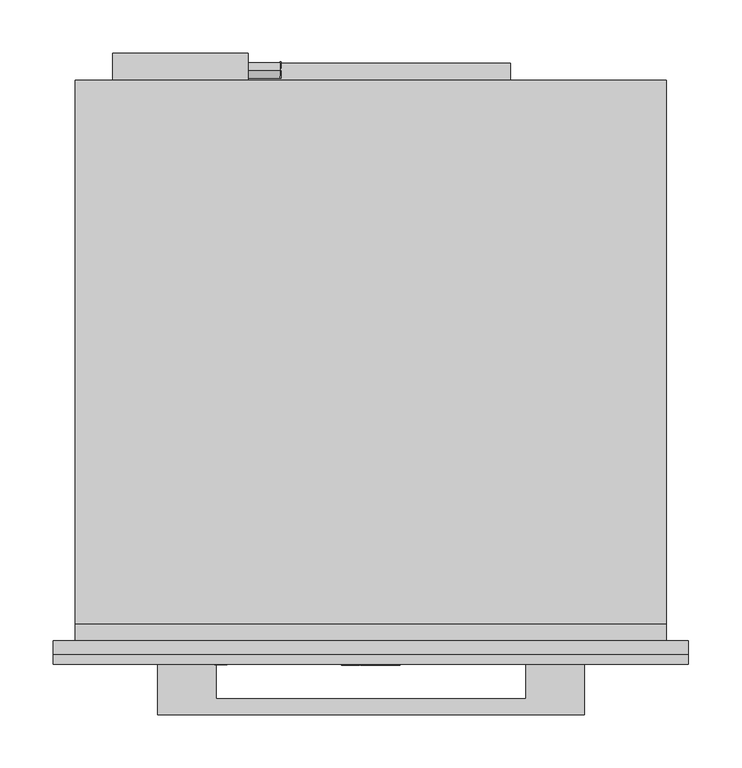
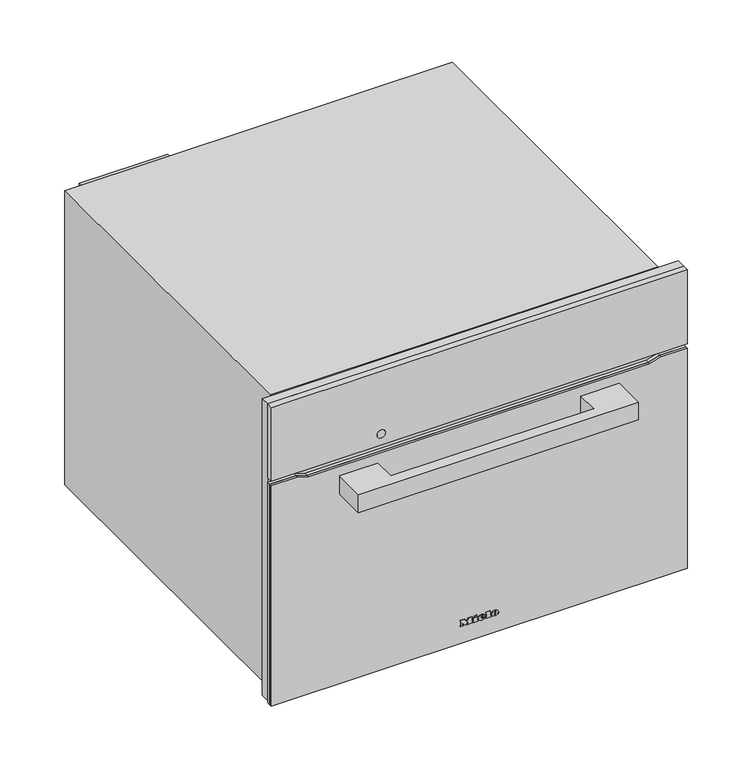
"""IFC4 building model written with IfcOpenShell, lengths in millimetres: proxy geometry, 11111200_CH_H7840BM_OBSW : 22784026_CH_11111200_H7840BM_OBSW."""

from ifc_helpers import new_model, si_unit, point, frame, frame_2d, origin, place, context, project, spatial, polyline, circle_curve, ellipse_curve, trimmed, segment, composite_curve, outline, extrude, faceted_brep, source, transform, mapped, element, save
from ifc_brep_helpers import plane_surface, cylinder_surface, revolved_surface, extruded_surface, advanced_brep


def specialty_equipment_cb0ab7d2(model_context):
    return source(origin(), model_context, "Body", "SolidModel", [
        advanced_brep(
        [(21.28, -23.0, 32.133), (21.28, -23.0, 33.042), (27.301, -23.0, 33.042), (16.825, -23.0, 33.042), (19.3, -23.0, 30.0), (27.148, -23.0, 32.133), (24.43, -23.0, 32.133), (22.288, -23.0, 31.125), (21.28, -23.0, 34.194), (21.28, -23.0, 35.175), (22.819, -23.0, 35.175), (22.819, -23.0, 34.194), (21.28, -22.0, 32.133), (22.288, -22.0, 31.125), (24.43, -22.0, 32.133), (27.148, -22.0, 32.133), (19.3, -22.0, 30.0), (16.825, -22.0, 33.042), (27.301, -22.0, 33.042), (21.28, -22.0, 33.042), (21.28, -22.0, 34.194), (22.819, -22.0, 34.194), (22.819, -22.0, 35.175), (21.28, -22.0, 35.175)],
        [
            (0, 1),
            (1, 2),
            (2, 3, ellipse_curve(frame((22.063, -23.0, 33.042), z_axis=(0.0, -1.0, 0.0), x_axis=(-1.0, 0.0, 0.0)), 5.238, 4.329)),
            (3, 4, circle_curve(frame((20.3080491, -23.0, 33.348), z_axis=(0.0, -1.0, 0.0), x_axis=(0.0, 0.0, -1.0)), 3.4964649)),
            (4, 5, circle_curve(frame((21.9581428, -23.0, 35.724), z_axis=(0.0, -1.0, 0.0), x_axis=(0.0, 0.0, -1.0)), 6.3110933)),
            (5, 6),
            (6, 7, circle_curve(frame((22.7279412, -23.0, 32.97), z_axis=(0.0, 1.0, 0.0), x_axis=(0.0, 0.0, -1.0)), 1.896727)),
            (7, 0, circle_curve(frame((22.288, -23.0, 32.133), z_axis=(0.0, 1.0, 0.0), x_axis=(0.0, 0.0, -1.0)), 1.008)),
            (8, 9),
            (9, 10, circle_curve(frame((22.0495, -23.0, 35.175), z_axis=(0.0, 1.0, 0.0), x_axis=(0.0, 0.0, -1.0)), 0.7695)),
            (10, 11),
            (11, 8),
            (12, 13, circle_curve(frame((22.288, -22.0, 32.133), z_axis=(0.0, -1.0, 0.0), x_axis=(0.0, 0.0, -1.0)), 1.008)),
            (13, 14, circle_curve(frame((22.7279412, -22.0, 32.97), z_axis=(0.0, -1.0, 0.0), x_axis=(0.0, 0.0, -1.0)), 1.896727)),
            (14, 15),
            (15, 16, circle_curve(frame((21.9581428, -22.0, 35.724), z_axis=(0.0, 1.0, 0.0), x_axis=(0.0, 0.0, -1.0)), 6.3110933)),
            (16, 17, circle_curve(frame((20.3080491, -22.0, 33.348), z_axis=(0.0, 1.0, 0.0), x_axis=(0.0, 0.0, -1.0)), 3.4964649)),
            (17, 18, ellipse_curve(frame((22.063, -22.0, 33.042), z_axis=(0.0, 1.0, 0.0), x_axis=(-1.0, 0.0, 0.0)), 5.238, 4.329)),
            (18, 19),
            (19, 12),
            (20, 21),
            (21, 22),
            (22, 23, circle_curve(frame((22.0495, -22.0, 35.175), z_axis=(0.0, -1.0, 0.0), x_axis=(0.0, 0.0, -1.0)), 0.7695)),
            (23, 20),
            (0, 12),
            (19, 1),
            (18, 2),
            (5, 15),
            (14, 6),
            (17, 3),
            (13, 7),
            (16, 4),
            (8, 20),
            (23, 9),
            (22, 10),
            (21, 11),
        ],
        [
            plane_surface(frame((21.28, -23.0, 33.042), z_axis=(0.0, -1.0, 0.0), x_axis=(0.0, 0.0, 1.0))),
            plane_surface(frame((21.28, -22.0, 33.042), z_axis=(0.0, 1.0, 0.0), x_axis=(0.0, 0.0, -1.0))),
            plane_surface(frame((21.28, -23.0, 32.133), z_axis=(1.0, 0.0, 0.0), x_axis=(0.0, 1.0, 0.0))),
            plane_surface(frame((21.28, -23.0, 33.042), z_axis=(0.0, 0.0, -1.0), x_axis=(0.0, 1.0, 0.0))),
            plane_surface(frame((27.148, -23.0, 32.133), z_axis=(0.0, 0.0, 1.0), x_axis=(0.0, 1.0, 0.0))),
            extruded_surface(trimmed(ellipse_curve(frame((22.063, -21.0, 33.042), z_axis=(0.0, -1.0, 0.0), x_axis=(-1.0, 0.0, 0.0)), 5.238, 4.329), [point((27.301, -21.0, 33.042))], [point((16.825, -21.0, 33.042))], True, "CARTESIAN"), (0.0, -1.0, 0.0), 1.0),
            revolved_surface(polyline([(22.7279412, -22.0, 31.073273), (22.7279412, -23.0, 31.073273)]), (22.7279412, -22.0, 32.97), (0.0, 1.0, 0.0)),
            revolved_surface(polyline([(22.288, -22.0, 31.125000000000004), (22.288, -23.0, 31.125000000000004)]), (22.288, -22.0, 32.133), (0.0, 1.0, 0.0)),
            cylinder_surface(frame((20.3080491, -22.0, 33.348), z_axis=(0.0, -1.0, 0.0), x_axis=(0.0, 0.0, -1.0)), 3.4964649),
            cylinder_surface(frame((21.9581428, -22.0, 35.724), z_axis=(0.0, -1.0, 0.0), x_axis=(0.0, 0.0, -1.0)), 6.3110933),
            plane_surface(frame((21.28, -23.0, 34.194), z_axis=(1.0, 0.0, 0.0), x_axis=(0.0, 1.0, 0.0))),
            revolved_surface(polyline([(22.0495, -22.0, 34.405499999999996), (22.0495, -23.0, 34.405499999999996)]), (22.0495, -22.0, 35.175), (0.0, 1.0, 0.0)),
            plane_surface(frame((22.819, -23.0, 35.175), z_axis=(-1.0, 0.0, 0.0), x_axis=(0.0, 1.0, 0.0))),
            plane_surface(frame((22.819, -23.0, 34.194), z_axis=(0.0, 0.0, 1.0), x_axis=(0.0, 1.0, 0.0))),
        ],
        [
            (0, [[1, 2, 3, 4, 5, 6, 7, 8], [9, 10, 11, 12]]),
            (1, [[13, 14, 15, 16, 17, 18, 19, 20], [21, 22, 23, 24]]),
            (2, [[-1, 25, -20, 26]]),
            (3, [[-2, -26, -19, 27]]),
            (4, [[-6, 28, -15, 29]]),
            (5, [[-3, -27, -18, 30]]),
            (6, [[-7, -29, -14, 31]]),
            (7, [[-8, -31, -13, -25]]),
            (8, [[-4, -30, -17, 32]]),
            (9, [[-5, -32, -16, -28]]),
            (10, [[-9, 33, -24, 34]]),
            (11, [[-10, -34, -23, 35]]),
            (12, [[-11, -35, -22, 36]]),
            (13, [[-12, -36, -21, -33]]),
        ],
    ),
        advanced_brep(
        [(2.497, -23.0, 32.133), (2.497, -23.0, 33.042), (8.518, -23.0, 33.042), (-1.958, -23.0, 33.042), (0.517, -23.0, 30.0), (8.365, -23.0, 32.133), (5.647, -23.0, 32.133), (3.505, -23.0, 31.125), (2.497, -23.0, 34.194), (2.497, -23.0, 35.175), (4.036, -23.0, 35.175), (4.036, -23.0, 34.194), (2.497, -22.0, 32.133), (3.505, -22.0, 31.125), (5.647, -22.0, 32.133), (8.365, -22.0, 32.133), (0.517, -22.0, 30.0), (-1.958, -22.0, 33.042), (8.518, -22.0, 33.042), (2.497, -22.0, 33.042), (2.497, -22.0, 34.194), (4.036, -22.0, 34.194), (4.036, -22.0, 35.175), (2.497, -22.0, 35.175)],
        [
            (0, 1),
            (1, 2),
            (2, 3, ellipse_curve(frame((3.28, -23.0, 33.042), z_axis=(0.0, -1.0, 0.0), x_axis=(-1.0, 0.0, 0.0)), 5.238, 4.329)),
            (3, 4, circle_curve(frame((1.5250491, -23.0, 33.348), z_axis=(0.0, -1.0, 0.0), x_axis=(0.0, 0.0, -1.0)), 3.4964649)),
            (4, 5, circle_curve(frame((3.1751428, -23.0, 35.724), z_axis=(0.0, -1.0, 0.0), x_axis=(0.0, 0.0, -1.0)), 6.3110933)),
            (5, 6),
            (6, 7, circle_curve(frame((3.9449412, -23.0, 32.97), z_axis=(0.0, 1.0, 0.0), x_axis=(0.0, 0.0, -1.0)), 1.896727)),
            (7, 0, circle_curve(frame((3.505, -23.0, 32.133), z_axis=(0.0, 1.0, 0.0), x_axis=(0.0, 0.0, -1.0)), 1.008)),
            (8, 9),
            (9, 10, circle_curve(frame((3.2665, -23.0, 35.175), z_axis=(0.0, 1.0, 0.0), x_axis=(0.0, 0.0, -1.0)), 0.7695)),
            (10, 11),
            (11, 8),
            (12, 13, circle_curve(frame((3.505, -22.0, 32.133), z_axis=(0.0, -1.0, 0.0), x_axis=(0.0, 0.0, -1.0)), 1.008)),
            (13, 14, circle_curve(frame((3.9449412, -22.0, 32.97), z_axis=(0.0, -1.0, 0.0), x_axis=(0.0, 0.0, -1.0)), 1.896727)),
            (14, 15),
            (15, 16, circle_curve(frame((3.1751428, -22.0, 35.724), z_axis=(0.0, 1.0, 0.0), x_axis=(0.0, 0.0, -1.0)), 6.3110933)),
            (16, 17, circle_curve(frame((1.5250491, -22.0, 33.348), z_axis=(0.0, 1.0, 0.0), x_axis=(0.0, 0.0, -1.0)), 3.4964649)),
            (17, 18, ellipse_curve(frame((3.28, -22.0, 33.042), z_axis=(0.0, 1.0, 0.0), x_axis=(-1.0, 0.0, 0.0)), 5.238, 4.329)),
            (18, 19),
            (19, 12),
            (20, 21),
            (21, 22),
            (22, 23, circle_curve(frame((3.2665, -22.0, 35.175), z_axis=(0.0, -1.0, 0.0), x_axis=(0.0, 0.0, -1.0)), 0.7695)),
            (23, 20),
            (0, 12),
            (19, 1),
            (18, 2),
            (5, 15),
            (14, 6),
            (17, 3),
            (13, 7),
            (16, 4),
            (8, 20),
            (23, 9),
            (22, 10),
            (21, 11),
        ],
        [
            plane_surface(frame((2.497, -23.0, 33.042), z_axis=(0.0, -1.0, 0.0), x_axis=(0.0, 0.0, 1.0))),
            plane_surface(frame((2.497, -22.0, 33.042), z_axis=(0.0, 1.0, 0.0), x_axis=(0.0, 0.0, -1.0))),
            plane_surface(frame((2.497, -23.0, 32.133), z_axis=(1.0, 0.0, 0.0), x_axis=(0.0, 1.0, 0.0))),
            plane_surface(frame((2.497, -23.0, 33.042), z_axis=(0.0, 0.0, -1.0), x_axis=(0.0, 1.0, 0.0))),
            plane_surface(frame((8.365, -23.0, 32.133), z_axis=(0.0, 0.0, 1.0), x_axis=(0.0, 1.0, 0.0))),
            extruded_surface(trimmed(ellipse_curve(frame((3.28, -21.0, 33.042), z_axis=(0.0, -1.0, 0.0), x_axis=(-1.0, 0.0, 0.0)), 5.238, 4.329), [point((8.518, -21.0, 33.042))], [point((-1.958, -21.0, 33.042))], True, "CARTESIAN"), (0.0, -1.0, 0.0), 1.0),
            revolved_surface(polyline([(3.9449412, -22.0, 31.073273), (3.9449412, -23.0, 31.073273)]), (3.9449412, -22.0, 32.97), (0.0, 1.0, 0.0)),
            revolved_surface(polyline([(3.505, -22.0, 31.125000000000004), (3.505, -23.0, 31.125000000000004)]), (3.505, -22.0, 32.133), (0.0, 1.0, 0.0)),
            cylinder_surface(frame((1.5250491, -22.0, 33.348), z_axis=(0.0, -1.0, 0.0), x_axis=(0.0, 0.0, -1.0)), 3.4964649),
            cylinder_surface(frame((3.1751428, -22.0, 35.724), z_axis=(0.0, -1.0, 0.0), x_axis=(0.0, 0.0, -1.0)), 6.3110933),
            plane_surface(frame((2.497, -23.0, 34.194), z_axis=(1.0, 0.0, 0.0), x_axis=(0.0, 1.0, 0.0))),
            revolved_surface(polyline([(3.2665, -22.0, 34.405499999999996), (3.2665, -23.0, 34.405499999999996)]), (3.2665, -22.0, 35.175), (0.0, 1.0, 0.0)),
            plane_surface(frame((4.036, -23.0, 35.175), z_axis=(-1.0, 0.0, 0.0), x_axis=(0.0, 1.0, 0.0))),
            plane_surface(frame((4.036, -23.0, 34.194), z_axis=(0.0, 0.0, 1.0), x_axis=(0.0, 1.0, 0.0))),
        ],
        [
            (0, [[1, 2, 3, 4, 5, 6, 7, 8], [9, 10, 11, 12]]),
            (1, [[13, 14, 15, 16, 17, 18, 19, 20], [21, 22, 23, 24]]),
            (2, [[-1, 25, -20, 26]]),
            (3, [[-2, -26, -19, 27]]),
            (4, [[-6, 28, -15, 29]]),
            (5, [[-3, -27, -18, 30]]),
            (6, [[-7, -29, -14, 31]]),
            (7, [[-8, -31, -13, -25]]),
            (8, [[-4, -30, -17, 32]]),
            (9, [[-5, -32, -16, -28]]),
            (10, [[-9, 33, -24, 34]]),
            (11, [[-10, -34, -23, 35]]),
            (12, [[-11, -35, -22, 36]]),
            (13, [[-12, -36, -21, -33]]),
        ],
    ),
        extrude(outline(polyline([(38.469, -7.34), (37.011, -6.656), (38.433, -3.605), (39.891, -4.28), (38.469, -7.34)])), frame((0.0, -23.0, 0.0), z_axis=(0.0, 1.0, 0.0), x_axis=(0.0, 0.0, 1.0)), (0.0, 0.0, 1.0), 1.0),
        extrude(outline(polyline([(36.813, -9.563), (35.202, -9.563), (35.202, -8.492), (31.512, -8.492), (31.512, -9.563), (30.0, -9.563), (30.0, -2.462), (31.512, -2.462), (31.512, -3.506), (36.813, -3.506), (36.813, -9.563)])), frame((0.0, -23.0, 0.0), z_axis=(0.0, 1.0, 0.0), x_axis=(0.0, 0.0, 1.0)), (0.0, 0.0, 1.0), 1.0),
        extrude(outline(polyline([(37.533, 9.022), (37.533, 10.102), (31.512, 10.102), (31.512, 9.022), (30.0, 9.022), (30.0, 16.321), (31.512, 16.321), (31.512, 15.214), (39.0, 15.214), (39.0, 9.022), (37.533, 9.022)])), frame((0.0, -23.0, 0.0), z_axis=(0.0, 1.0, 0.0), x_axis=(0.0, 0.0, 1.0)), (0.0, 0.0, 1.0), 1.0),
        extrude(outline(polyline([(37.533, -27.5), (37.533, -26.411), (31.512, -26.411), (31.512, -27.5), (30.0, -27.5), (30.0, -23.54), (31.512, -23.54), (31.512, -24.62), (35.3341247, -24.62), (30.0, -20.597), (35.4402223, -16.556), (31.512, -16.556), (31.512, -17.663), (30.0, -17.663), (30.0, -10.481), (31.512, -10.481), (31.512, -11.624), (37.533, -11.624), (37.533, -10.481), (39.0, -10.481), (39.0, -15.962), (35.625, -18.59), (39.0, -21.227), (39.0, -27.5), (37.533, -27.5)])), frame((0.0, -23.0, 0.0), z_axis=(0.0, 1.0, 0.0), x_axis=(0.0, 0.0, 1.0)), (0.0, 0.0, 1.0), 1.0),
        extrude(outline(polyline([(-200.0, -69.0), (-200.0, -22.0), (-145.0, -22.0), (-145.0, -54.0), (145.0, -54.0), (145.0, -22.0), (200.0, -22.0), (200.0, -69.0), (-200.0, -69.0)])), frame((0.0, 0.0, 291.0), z_axis=(0.0, 0.0, 1.0), x_axis=(1.0, 0.0, 0.0)), (0.0, 0.0, 1.0), 27.0),
        extrude(outline(polyline([(337.0, -297.5), (4.0, -297.5), (4.0, 297.5), (337.0, 297.5), (337.0, 260.3542631), (332.0, 244.0), (332.0, -244.0), (337.0, -260.3542631), (337.0, -297.5)])), frame((0.0, -18.0, 0.0), z_axis=(0.0, 1.0, 0.0), x_axis=(0.0, 0.0, 1.0)), (0.0, 0.0, 1.0), 5.0),
        extrude(outline(polyline([(337.0, -297.5), (4.0, -297.5), (4.0, 297.5), (337.0, 297.5), (337.0, 260.3542631), (332.0, 244.0), (332.0, -244.0), (337.0, -260.3542631), (337.0, -297.5)])), frame((0.0, -22.0, 0.0), z_axis=(0.0, 1.0, 0.0), x_axis=(0.0, 0.0, 1.0)), (0.0, 0.0, 1.0), 4.0),
        extrude(outline(polyline([(297.5, -22.0), (-297.5, -22.0), (-297.5, -13.0), (297.5, -13.0), (297.5, -22.0)])), frame((0.0, 0.0, 344.0), z_axis=(0.0, 0.0, 1.0), x_axis=(1.0, 0.0, 0.0)), (0.0, 0.0, 1.0), 111.5),
        extrude(outline(composite_curve([segment(trimmed(circle_curve(frame_2d((361.0, -140.5745637)), 6.0), [point((361.0, -146.5745637))], [point((361.0, -134.5745637))], False, "CARTESIAN"), True, "CONTINUOUS"), segment(trimmed(circle_curve(frame_2d((361.0, -140.5745637)), 6.0), [point((361.0, -134.5745637))], [point((361.0, -146.5745637))], False, "CARTESIAN"), True, "CONTINUOUS")], self_intersect=False)), frame((0.0, -22.5, 0.0), z_axis=(0.0, 1.0, 0.0), x_axis=(0.0, 0.0, 1.0)), (0.0, 0.0, 1.0), 1.0),
        extrude(outline(polyline([(526.6176075, 348.0006785), (526.6176075, 358.0471554), (533.8434473, 358.0471554), (533.8434473, 356.7922128), (527.8818689, 356.7922128), (527.8818689, 353.8127064), (533.5308134, 353.8127064), (533.5308134, 352.551833), (527.8785103, 352.551833), (527.8785103, 349.2552921), (534.0086943, 349.2552921), (534.0086943, 348.0006785), (526.6176075, 348.0006785)])), frame((-85.0, 0.0, 0.0), z_axis=(1.0, 0.0, 0.0), x_axis=(0.0, 1.0, 0.0)), (0.0, 0.0, 1.0), 1.0),
        extrude(outline(polyline([(535.8834538, 348.0032098), (535.8834538, 358.0486697), (537.1384639, 358.0486697), (537.1384639, 349.2559157), (542.1633067, 349.2559157), (542.1633067, 348.0032098), (535.8834538, 348.0032098)])), frame((-85.0, 0.0, 0.0), z_axis=(1.0, 0.0, 0.0), x_axis=(0.0, 1.0, 0.0)), (0.0, 0.0, 1.0), 1.0),
        extrude(outline(composite_curve([segment(trimmed(circle_curve(frame_2d((534.0, 353.0)), 7.5), [point((534.0, 345.5))], [point((534.0, 360.5))], False, "CARTESIAN"), True, "CONTINUOUS"), segment(trimmed(circle_curve(frame_2d((534.0, 353.0)), 7.5), [point((534.0, 360.5))], [point((534.0, 345.5))], False, "CARTESIAN"), True, "CONTINUOUS")], self_intersect=False)), frame((-115.0, 0.0, 0.0), z_axis=(1.0, 0.0, 0.0), x_axis=(0.0, 1.0, 0.0)), (0.0, 0.0, 1.0), 30.0),
        extrude(outline(polyline([(-115.0, 525.0), (-242.0, 525.0), (-242.0, 550.0), (-115.0, 550.0), (-115.0, 525.0)])), frame((0.0, 0.0, 325.0), z_axis=(0.0, 0.0, 1.0), x_axis=(1.0, 0.0, 0.0)), (0.0, 0.0, 1.0), 103.0),
        extrude(outline(polyline([(130.5, 525.0), (-130.5, 525.0), (-130.5, 541.0), (130.5, 541.0), (130.5, 525.0)])), frame((0.0, 0.0, 36.0), z_axis=(0.0, 0.0, 1.0), x_axis=(1.0, 0.0, 0.0)), (0.0, 0.0, 1.0), 261.0),
        faceted_brep([(272.5, 17.0, 344.0), (-272.5, 17.0, 344.0), (-272.5, 17.0, 7.0), (272.5, 17.0, 7.0), (-230.0, 17.0, 295.0), (230.0, 17.0, 295.0), (230.0, 17.0, 60.0), (-230.0, 17.0, 60.0), (272.5, 0.0, 344.0), (-272.5, 0.0, 344.0), (-272.5, 0.0, 7.0), (272.5, 0.0, 7.0), (277.0, 0.0, 0.0), (277.0, 525.0, 0.0), (277.0, 525.0, 444.5), (277.0, 16.0, 444.5), (277.0, 16.0, 439.5), (277.0, 0.0, 439.5), (-277.0, 16.0, 444.5), (-277.0, 525.0, 444.5), (-277.0, 525.0, 0.0), (-277.0, 0.0, 0.0), (-277.0, 0.0, 439.5), (-277.0, 16.0, 439.5), (230.0, 412.0, 295.0), (-230.0, 412.0, 295.0), (-230.0, 412.0, 60.0), (230.0, 412.0, 60.0)], [[[0, 1, 2, 3], [4, 5, 6, 7]], [[1, 0, 8, 9]], [[2, 1, 9, 10]], [[0, 3, 11, 8]], [[12, 13, 14, 15, 16, 17]], [[18, 19, 20, 21, 22, 23]], [[13, 12, 21, 20]], [[14, 13, 20, 19]], [[15, 14, 19, 18]], [[21, 12, 17, 22], [9, 8, 11, 10]], [[24, 25, 26, 27]], [[25, 24, 5, 4]], [[26, 25, 4, 7]], [[27, 26, 7, 6]], [[24, 27, 6, 5]], [[3, 2, 10, 11]], [[16, 23, 22, 17]], [[23, 16, 15, 18]]]),
        extrude(outline(polyline([(7.0, 297.5), (455.5, 297.5), (455.5, -297.5), (7.0, -297.5), (7.0, -272.5), (344.0, -272.5), (344.0, 272.5), (7.0, 272.5), (7.0, 297.5)])), frame((0.0, -13.0, 0.0), z_axis=(0.0, 1.0, 0.0), x_axis=(0.0, 0.0, 1.0)), (0.0, 0.0, 1.0), 13.0),
    ])


if __name__ == "__main__":
    model = new_model("IFC4")
    model_context = context("Model", 3, world=origin())
    ifc_project = project(units=[si_unit("LENGTHUNIT", "METRE", prefix="MILLI")], contexts=[model_context])
    site = spatial("IfcSite", under=ifc_project)
    building = spatial("IfcBuilding", under=site)
    placement = place(None, origin())
    specialty_equipment_shape = specialty_equipment_cb0ab7d2(model_context)
    element("IfcBuildingElementProxy", 1, Name="11111200_CH_H7840BM_OBSW : 22784026_CH_11111200_H7840BM_OBSW", ObjectType="11111200_CH_H7840BM_OBSW : 22784026_CH_11111200_H7840BM_OBSW", at=placement, inside=building, context=model_context, shape_type="MappedRepresentation", body=[
        mapped(specialty_equipment_shape, transform((0.0, 0.0, 0.0), x_axis=(1.0, 0.0, 0.0), y_axis=(0.0, 1.0, 0.0), z_axis=(0.0, 0.0, 1.0))),
    ])
    save(model, "model.ifc")
